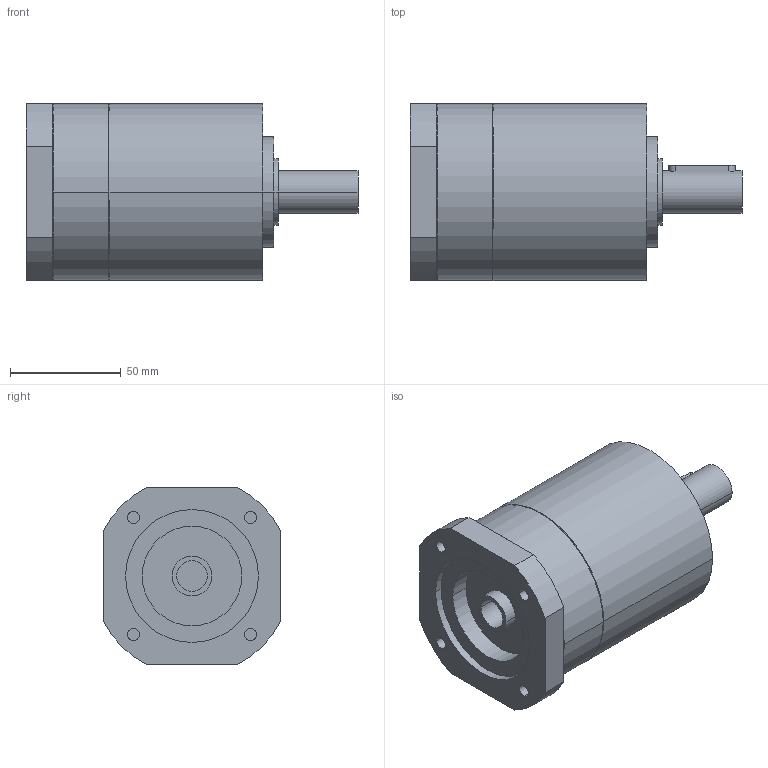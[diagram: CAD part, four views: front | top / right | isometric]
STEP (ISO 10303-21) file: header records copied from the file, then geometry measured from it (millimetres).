
FILE_DESCRIPTION(('CoCreate Modeling STEP Export'),'2;1');
FILE_NAME('GPR100_ig-3-4-5-6_19_B14_14_P03.stp','2014-08-26T10:07:02',(''),(''),'CoCreate Modeling STEP processor for AP214 (Solid Model)','CoCreate Modeling 16.00C 25-Feb-2009 (C) Parametric Technology GmbH','');
FILE_SCHEMA(('AUTOMOTIVE_DESIGN { 1 0 10303 214 1 1 1 1 }'));
Length unit declared in the file: millimetre
Products named in the file (2): GPR100_ig-3-4-5-6_19_B14_14_P03
Assembly tree (1 placements, depth 2):
  GPR100_ig-3-4-5-6_19_B14_14_P03
    GPR100_ig-3-4-5-6_19_B14_14_P03
Bounding box: 150 x 80 x 80 mm (x, y, z)
Volume: 538640.4 mm3; surface area: 48613.5 mm2
Topology: 1 solids, 1 shells, 86 faces, 233 edges, 161 vertices
Faces by surface type: cylinder 50, plane 30, cone 6
Entity records: 2322 total; most frequent: ORIENTED_EDGE 462, CARTESIAN_POINT 419, DIRECTION 314, EDGE_CURVE 231, VERTEX_POINT 161, AXIS2_PLACEMENT_3D 120, EDGE_LOOP 108, FACE_OUTER_BOUND 86
